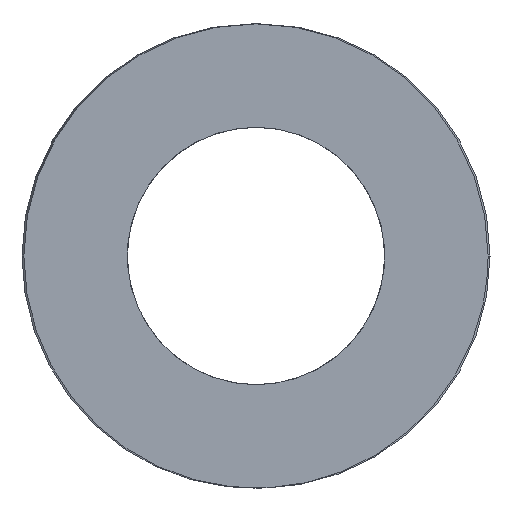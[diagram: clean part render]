
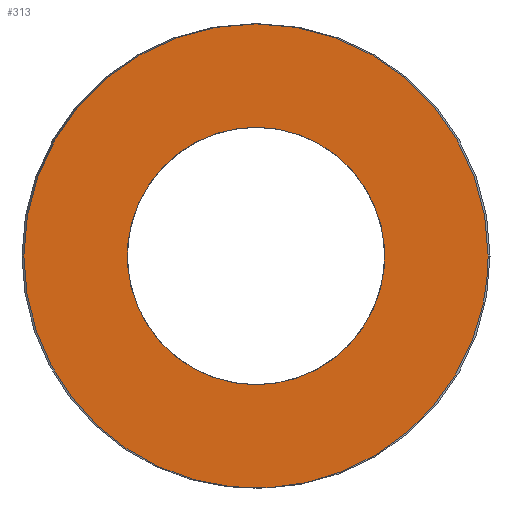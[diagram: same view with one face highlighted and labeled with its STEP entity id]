
A CAD part, left-side view. The second image highlights one B-rep face of the part: STEP entity #313.
In plain terms, the highlighted planar face has unit normal (-1, 0, 0).
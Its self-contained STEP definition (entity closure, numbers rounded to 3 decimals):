
#63=CARTESIAN_POINT('Vertex',(0.,9.2,0.)) ;
#89=CARTESIAN_POINT('Vertex',(0.,-9.2,0.)) ;
#93=CARTESIAN_POINT('Control Point',(0.,9.2,0.)) ;
#94=CARTESIAN_POINT('Control Point',(0.,9.2,-1.445)) ;
#95=CARTESIAN_POINT('Control Point',(0.,8.916,-2.89)) ;
#96=CARTESIAN_POINT('Control Point',(0.,8.348,-4.261)) ;
#97=CARTESIAN_POINT('Control Point',(0.,6.706,-6.706)) ;
#98=CARTESIAN_POINT('Control Point',(0.,4.261,-8.348)) ;
#99=CARTESIAN_POINT('Control Point',(0.,2.89,-8.916)) ;
#100=CARTESIAN_POINT('Control Point',(0.,0.,-9.484)) ;
#101=CARTESIAN_POINT('Control Point',(0.,-2.89,-8.916)) ;
#102=CARTESIAN_POINT('Control Point',(0.,-4.261,-8.348)) ;
#103=CARTESIAN_POINT('Control Point',(0.,-6.706,-6.706)) ;
#104=CARTESIAN_POINT('Control Point',(0.,-8.348,-4.261)) ;
#105=CARTESIAN_POINT('Control Point',(0.,-8.916,-2.89)) ;
#106=CARTESIAN_POINT('Control Point',(0.,-9.2,-1.445)) ;
#107=CARTESIAN_POINT('Control Point',(0.,-9.2,0.)) ;
#121=CARTESIAN_POINT('Axis2P3D Location',(0.,0.,0.)) ;
#250=CARTESIAN_POINT('Axis2P3D Location',(0.,4.6,0.)) ;
#260=CARTESIAN_POINT('Control Point',(0.,0.,-5.1)) ;
#261=CARTESIAN_POINT('Control Point',(0.,0.553,-5.1)) ;
#262=CARTESIAN_POINT('Control Point',(0.,1.106,-5.025)) ;
#263=CARTESIAN_POINT('Control Point',(0.,1.646,-4.875)) ;
#264=CARTESIAN_POINT('Control Point',(0.,2.671,-4.432)) ;
#265=CARTESIAN_POINT('Control Point',(0.,3.541,-3.733)) ;
#266=CARTESIAN_POINT('Control Point',(0.,3.926,-3.326)) ;
#267=CARTESIAN_POINT('Control Point',(0.,4.575,-2.418)) ;
#268=CARTESIAN_POINT('Control Point',(0.,4.96,-1.37)) ;
#269=CARTESIAN_POINT('Control Point',(0.,5.079,-0.822)) ;
#270=CARTESIAN_POINT('Control Point',(0.,5.167,0.291)) ;
#271=CARTESIAN_POINT('Control Point',(0.,4.955,1.387)) ;
#272=CARTESIAN_POINT('Control Point',(0.,4.775,1.917)) ;
#273=CARTESIAN_POINT('Control Point',(0.,4.275,2.916)) ;
#274=CARTESIAN_POINT('Control Point',(0.,3.528,3.745)) ;
#275=CARTESIAN_POINT('Control Point',(0.,3.1,4.106)) ;
#276=CARTESIAN_POINT('Control Point',(0.,2.255,4.642)) ;
#277=CARTESIAN_POINT('Control Point',(0.,1.309,4.959)) ;
#278=CARTESIAN_POINT('Control Point',(0.,0.877,5.053)) ;
#279=CARTESIAN_POINT('Control Point',(0.,0.439,5.1)) ;
#280=CARTESIAN_POINT('Control Point',(0.,0.,5.1)) ;
#281=CARTESIAN_POINT('Vertex',(0.,0.,-5.1)) ;
#283=CARTESIAN_POINT('Vertex',(0.,0.,5.1)) ;
#287=CARTESIAN_POINT('Control Point',(0.,0.,5.1)) ;
#288=CARTESIAN_POINT('Control Point',(0.,-0.553,5.1)) ;
#289=CARTESIAN_POINT('Control Point',(0.,-1.106,5.025)) ;
#290=CARTESIAN_POINT('Control Point',(0.,-1.646,4.875)) ;
#291=CARTESIAN_POINT('Control Point',(0.,-2.671,4.432)) ;
#292=CARTESIAN_POINT('Control Point',(0.,-3.541,3.733)) ;
#293=CARTESIAN_POINT('Control Point',(0.,-3.926,3.326)) ;
#294=CARTESIAN_POINT('Control Point',(0.,-4.575,2.418)) ;
#295=CARTESIAN_POINT('Control Point',(0.,-4.96,1.37)) ;
#296=CARTESIAN_POINT('Control Point',(0.,-5.079,0.822)) ;
#297=CARTESIAN_POINT('Control Point',(0.,-5.167,-0.291)) ;
#298=CARTESIAN_POINT('Control Point',(0.,-4.955,-1.387)) ;
#299=CARTESIAN_POINT('Control Point',(0.,-4.775,-1.917)) ;
#300=CARTESIAN_POINT('Control Point',(0.,-4.275,-2.916)) ;
#301=CARTESIAN_POINT('Control Point',(0.,-3.528,-3.745)) ;
#302=CARTESIAN_POINT('Control Point',(0.,-3.1,-4.106)) ;
#303=CARTESIAN_POINT('Control Point',(0.,-2.255,-4.642)) ;
#304=CARTESIAN_POINT('Control Point',(0.,-1.309,-4.959)) ;
#305=CARTESIAN_POINT('Control Point',(0.,-0.877,-5.053)) ;
#306=CARTESIAN_POINT('Control Point',(0.,-0.439,-5.1)) ;
#307=CARTESIAN_POINT('Control Point',(0.,0.,-5.1)) ;
#122=DIRECTION('Axis2P3D Direction',(1.,-0.,0.)) ;
#251=DIRECTION('Axis2P3D Direction',(-1.,0.,0.)) ;
#252=DIRECTION('Axis2P3D XDirection',(0.,1.,0.)) ;
#123=AXIS2_PLACEMENT_3D('Circle Axis2P3D',#121,#122,$) ;
#253=AXIS2_PLACEMENT_3D('Plane Axis2P3D',#250,#251,#252) ;
#256=ORIENTED_EDGE('',*,*,#108,.T.) ;
#257=ORIENTED_EDGE('',*,*,#125,.T.) ;
#310=ORIENTED_EDGE('',*,*,#285,.T.) ;
#311=ORIENTED_EDGE('',*,*,#308,.T.) ;
#312=FACE_BOUND('',#309,.T.) ;
#313=ADVANCED_FACE('392-B20-139',(#258,#312),#254,.T.) ;
#92=B_SPLINE_CURVE_WITH_KNOTS('',5,(#93,#94,#95,#96,#97,#98,#99,#100,#101,#102,#103,#104,#105,#106,#107),.UNSPECIFIED.,.F.,.U.,(6,3,3,3,6),(-14.451,-7.226,0.,7.226,14.451),.UNSPECIFIED.) ;
#259=B_SPLINE_CURVE_WITH_KNOTS('',5,(#260,#261,#262,#263,#264,#265,#266,#267,#268,#269,#270,#271,#272,#273,#274,#275,#276,#277,#278,#279,#280),.UNSPECIFIED.,.F.,.U.,(6,3,3,3,3,3,6),(0.,3.911,7.823,11.734,15.646,19.557,22.658),.UNSPECIFIED.) ;
#286=B_SPLINE_CURVE_WITH_KNOTS('',5,(#287,#288,#289,#290,#291,#292,#293,#294,#295,#296,#297,#298,#299,#300,#301,#302,#303,#304,#305,#306,#307),.UNSPECIFIED.,.F.,.U.,(6,3,3,3,3,3,6),(0.,3.911,7.823,11.734,15.646,19.557,22.658),.UNSPECIFIED.) ;
#124=CIRCLE('generated circle',#123,9.2) ;
#108=EDGE_CURVE('',#64,#90,#92,.T.) ;
#125=EDGE_CURVE('',#90,#64,#124,.F.) ;
#285=EDGE_CURVE('',#282,#284,#259,.T.) ;
#308=EDGE_CURVE('',#284,#282,#286,.T.) ;
#255=EDGE_LOOP('',(#256,#257)) ;
#309=EDGE_LOOP('',(#310,#311)) ;
#258=FACE_OUTER_BOUND('',#255,.T.) ;
#254=PLANE('Plane',#253) ;
#64=VERTEX_POINT('',#63) ;
#90=VERTEX_POINT('',#89) ;
#282=VERTEX_POINT('',#281) ;
#284=VERTEX_POINT('',#283) ;
